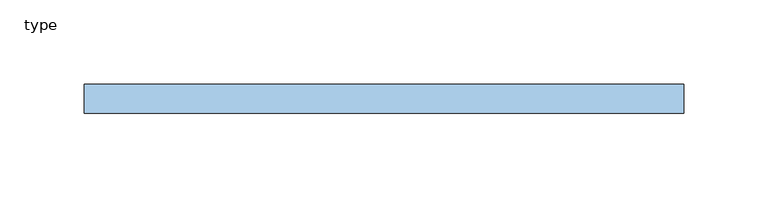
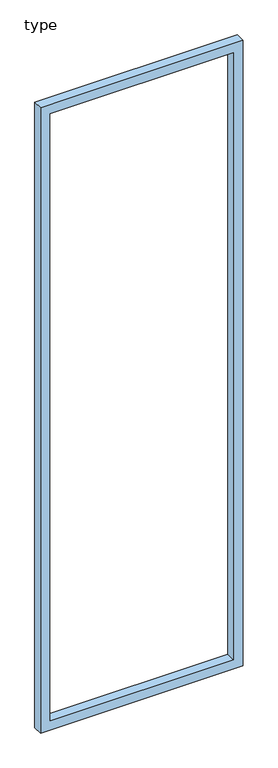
"""IFC4 building model written with IfcOpenShell, lengths in millimetres: window geometry, NLRS_30_MC_glaslat_vast_17x17 : type."""

from ifc_helpers import new_model, si_unit, frame, origin, place, context, project, spatial, polyline, outline, extrude, source, transform, mapped, element, save


def type_e34618c7(model_context):
    return source(origin(), model_context, "Body", "SweptSolid", [
        extrude(outline(polyline([(1157.4, 177.5), (1157.4, -177.5), (0.0, -177.5), (0.0, 177.5), (1157.4, 177.5)]), holes=[polyline([(17.0, 160.5), (17.0, -160.5), (1140.4, -160.5), (1140.4, 160.5), (17.0, 160.5)])]), frame((0.0, 32.0, 0.0), z_axis=(0.0, 1.0, 0.0), x_axis=(0.0, 0.0, 1.0)), (0.0, 0.0, 1.0), 17.0),
    ])


if __name__ == "__main__":
    model = new_model("IFC4")
    model_context = context("Model", 3, world=origin())
    ifc_project = project(units=[si_unit("LENGTHUNIT", "METRE", prefix="MILLI")], contexts=[model_context])
    site = spatial("IfcSite", under=ifc_project)
    building = spatial("IfcBuilding", under=site)
    placement = place(None, origin())
    ifc_type_shape = type_e34618c7(model_context)
    element("IfcWindow", 1, ObjectType="NLRS_30_MC_glaslat_vast_17x17 : type", at=placement, inside=building, context=model_context, shape_type="MappedRepresentation", body=[
        mapped(ifc_type_shape, transform((0.0, 0.0, 0.0), x_axis=(1.0, 0.0, 0.0), y_axis=(0.0, 1.0, 0.0), z_axis=(0.0, 0.0, 1.0))),
    ])
    save(model, "model.ifc")
